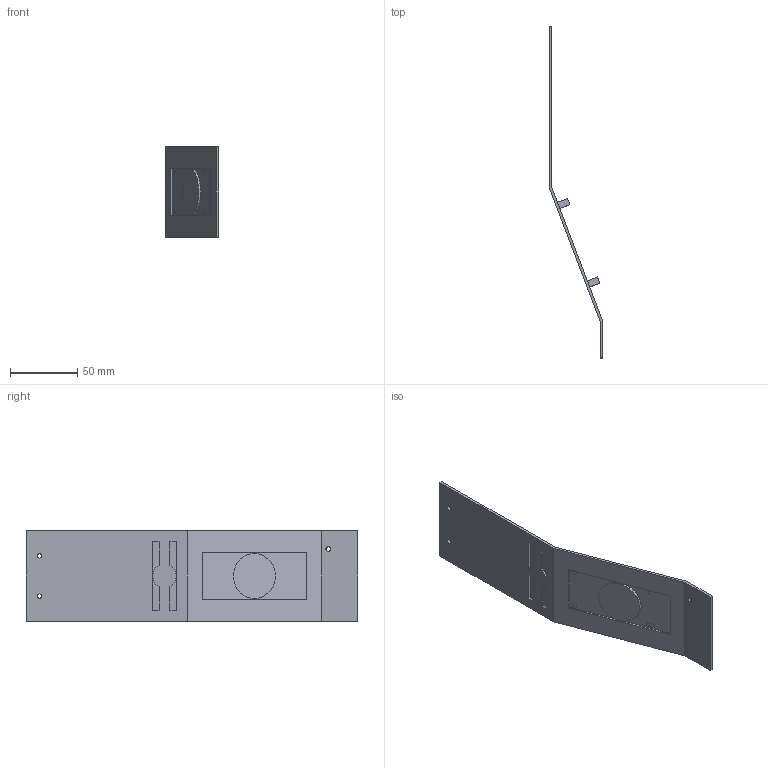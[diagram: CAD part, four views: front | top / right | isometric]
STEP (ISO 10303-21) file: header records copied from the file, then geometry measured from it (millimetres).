
FILE_DESCRIPTION(/* description */ ('STEP AP242 Edition 2','CAx-IF Rec.Pracs.---Representation and Presentation of Product Manufacturing Information (PMI)---4.0---2014-10-13','CAx-IF Rec.Pracs.---3D Tessellated Geometry---0.4---2014-09-14','2;1','CAx-IF Rec.Pracs.---User Defined Attributes---1.5---2016-08-15'),/* implementation_level */ '2;1');
FILE_NAME(/* name */ 'Arm Parts - YCoverWall',/* time_stamp */ '2026-04-22T00:04:14Z',/* author */ (''),/* organization */ (''),/* preprocessor_version */ 'ST-DEVELOPER v20',/* originating_system */ 'ONSHAPE BY PTC INC, 1.213',/* authorisation */ ' ');
FILE_SCHEMA (('AP242_MANAGED_MODEL_BASED_3D_ENGINEERING_MIM_LF { 1 0 10303 442 3 1 4 }'));
Length unit declared in the file: metre
Products named in the file (1): YCoverWall
Bounding box: 40 x 247 x 67 mm (x, y, z)
Volume: 30437 mm3; surface area: 37060 mm2
Topology: 1 solids, 1 shells, 62 faces, 147 edges, 99 vertices
Faces by surface type: plane 52, cylinder 9, bspline 1
Full cylindrical faces by diameter (mm): 2.2 x4, 3.4 x2, 3.6 x1
Entity records: 1776 total; most frequent: CARTESIAN_POINT 332, DIRECTION 280, ORIENTED_EDGE 272, EDGE_CURVE 136, LINE 116, VECTOR 116, VERTEX_POINT 96, EDGE_LOOP 88
